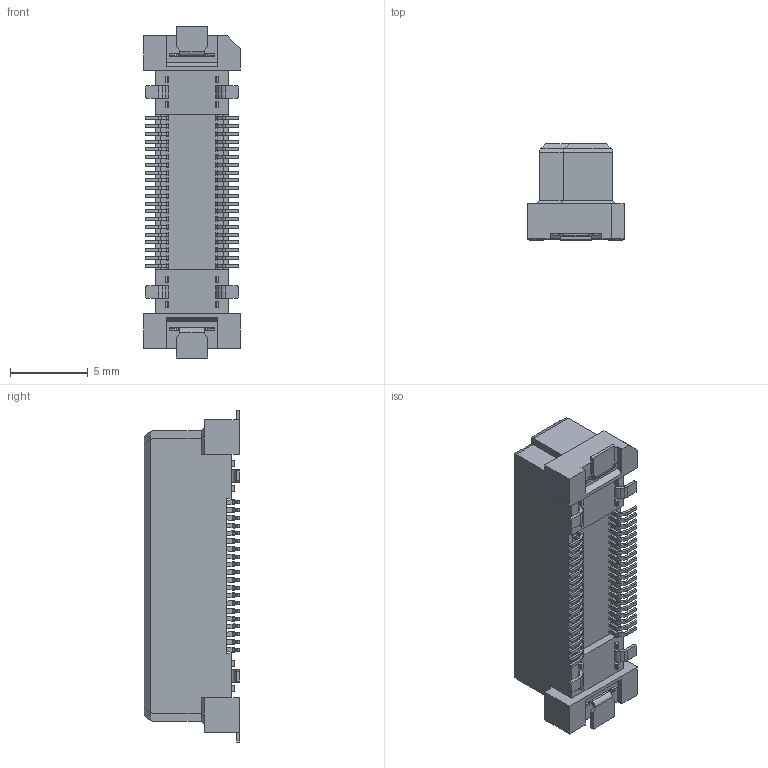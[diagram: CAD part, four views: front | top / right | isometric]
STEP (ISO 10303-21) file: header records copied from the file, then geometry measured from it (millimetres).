
FILE_DESCRIPTION(('Creo Elements/Direct Modeling STEP Export'),'2;1');
FILE_NAME('P3E603_DT10E-040S-8-T.stp','2024-03-12T15:21:27',(''),(''),'Creo Elements/Direct Modeling STEP processor for AP214 (Solid Model)','Creo Elements/Direct Modeling 20.6 25-Mar-2023 (C) Parametric Technology GmbH','');
FILE_SCHEMA(('AUTOMOTIVE_DESIGN { 1 0 10303 214 1 1 1 1 }'));
Products named in the file (1): P3E603_DT10E-040S-8-T
Bounding box: 6.2 x 6.18 x 21.4 mm (x, y, z)
Volume: 439.2 mm3; surface area: 727.7 mm2
Topology: 1 solids, 1 shells, 2043 faces, 5558 edges, 3572 vertices
Faces by surface type: plane 1583, cylinder 332, bspline 88, torus 40
Entity records: 73401 total; most frequent: CARTESIAN_POINT 21409, ORIENTED_EDGE 11116, DIRECTION 10102, EDGE_CURVE 5558, VECTOR 4334, LINE 4334, VERTEX_POINT 3572, AXIS2_PLACEMENT_3D 2884
